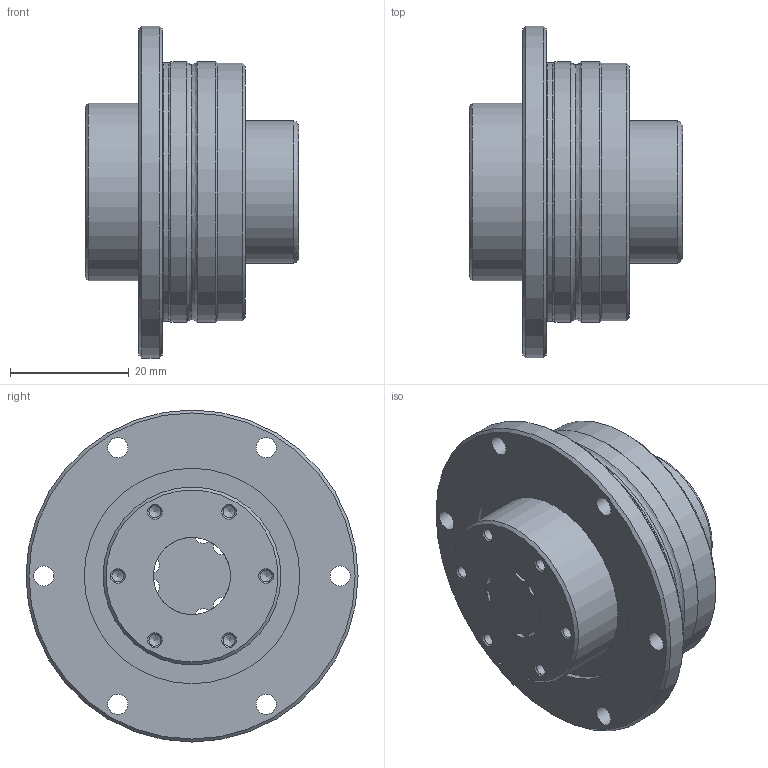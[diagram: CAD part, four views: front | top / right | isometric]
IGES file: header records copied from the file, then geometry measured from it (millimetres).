
Start section: Data from Parasolid IGES Translator 26.0.171, Copyright(c) 2006 Siemens PLM Software. All Rights Reserved.
Global section: file name: LTR13A+36L(0_0).igs; native system: By Siemens PLM Incorporated; preprocessor: XPlus GENERIC/IGES 26.0.171; author: Noname; organization: Noname; date: 20240528.075155; units: millimetre
Bounding box: 36 x 56 x 56 mm (x, y, z)
Surface area: 24027.7 mm2 (no closed solid volume)
Topology: 0 solids, 0 shells, 127 faces, 602 edges, 514 vertices
Faces by surface type: revolution 107, extrusion 20
